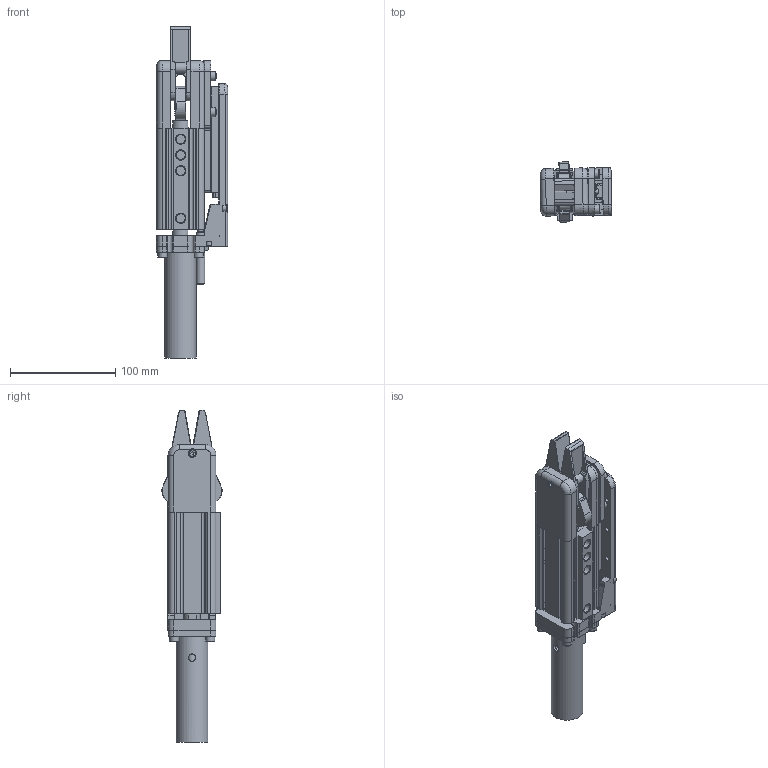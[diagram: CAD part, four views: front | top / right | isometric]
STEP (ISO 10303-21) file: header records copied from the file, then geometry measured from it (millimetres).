
FILE_DESCRIPTION(/* description */ (''),/* implementation_level */ '2;1');
FILE_NAME(/* name */ '8Y00415-GRP32C-30--30.stp',/* time_stamp */ '2023-02-22T14:58:36+08:00',/* author */ (''),/* organization */ (''),/* preprocessor_version */ 'ST-DEVELOPER v16',/* originating_system */ 'SIEMENS PLM Software NX 10.0',/* authorisation */ '');
FILE_SCHEMA (('AUTOMOTIVE_DESIGN { 1 0 10303 214 3 1 1 1 }'));
Length unit declared in the file: millimetre
Products named in the file (1): _model50
Bounding box: 67.52 x 57.07 x 314.8 mm (x, y, z)
Volume: 410645.3 mm3; surface area: 154568.5 mm2
Topology: 13 solids, 36 shells, 1237 faces, 3136 edges, 1974 vertices
Faces by surface type: plane 743, cylinder 314, cone 137, torus 29, sphere 14
Full cylindrical faces by diameter (mm): 2.5 x2, 3.3 x6, 4 x12, 4.1 x1, 4.2 x14, 4.5 x10, 5 x13, 5.2 x8, 5.5 x8, 6 x9, 6.5 x1, 6.647 x1, 7 x12, 8 x9, 8.5 x13, 8.566 x4, 9 x12, 10 x6, 13 x1, 13.5 x1, 14 x1, 15 x2, 16 x3, 17 x12, 20 x3, 21 x2, 30 x1, 32 x2, 34 x3
Entity records: 44110 total; most frequent: CARTESIAN_POINT 7501, DIRECTION 5928, ORIENTED_EDGE 5198, EDGE_CURVE 2599, AXIS2_PLACEMENT_3D 2193, VERTEX_POINT 1834, EDGE_LOOP 1701, LINE 1542
